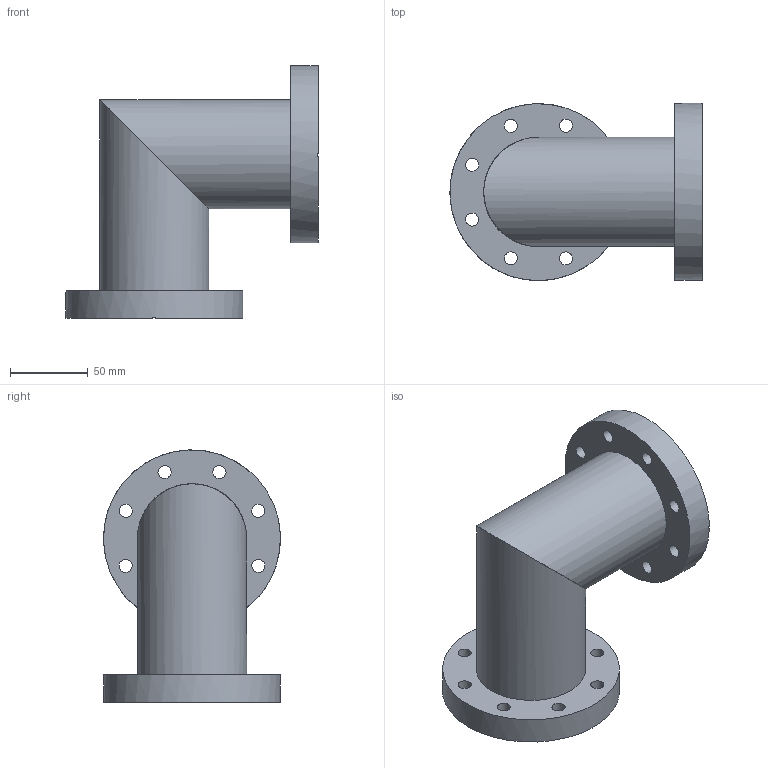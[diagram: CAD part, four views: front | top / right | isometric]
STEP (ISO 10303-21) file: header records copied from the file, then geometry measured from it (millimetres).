
FILE_DESCRIPTION( ( 'Unknown' ), '1' );
FILE_NAME( 'X:/Daten ( aktueller Bestand )/Projekte und Zeichnungen/Solid Edge/STP-Dateien/CF-Teile/7133F4.stp', 'Unknown', ( 'Unknown' ), ( 'Unknown' ), 'PSStep 14.0', 'Unknown', ' ' );
FILE_SCHEMA( ( 'AUTOMOTIVE_DESIGN { 1 0 10303 214 1 1 1 1 }' ) );
Length unit declared in the file: millimetre
Products named in the file (5): 7513F; 7133F-1; Assem1
Assembly tree (6 placements, depth 3):
  Assem1
    7133F-1  x2
      7133F-1
    7513F  x2
      7513F
Bounding box: 161.75 x 113.5 x 161.74 mm (x, y, z)
Volume: 288564 mm3; surface area: 137568.2 mm2
Topology: 4 solids, 4 shells, 50 faces, 116 edges, 76 vertices
Faces by surface type: cylinder 32, plane 14, cone 4
Full cylindrical faces by diameter (mm): 8.4 x16, 66 x4, 70 x2, 70.3 x2, 82 x2, 113.5 x2
Entity records: 1032 total; most frequent: CARTESIAN_POINT 162, DIRECTION 136, ORIENTED_EDGE 80, AXIS2_PLACEMENT_3D 66, EDGE_LOOP 62, EDGE_CURVE 40, FACE_OUTER_BOUND 39, VERTEX_POINT 36
